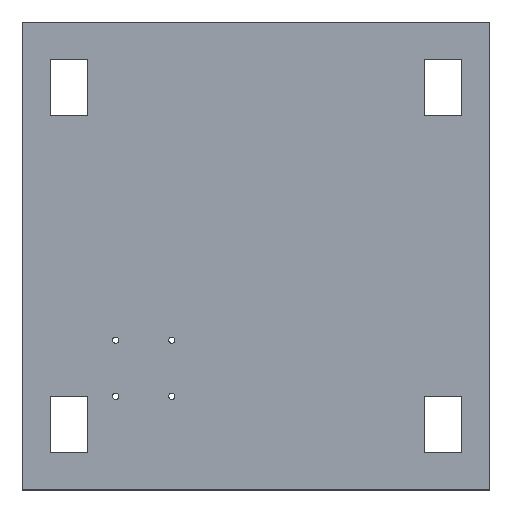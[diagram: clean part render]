
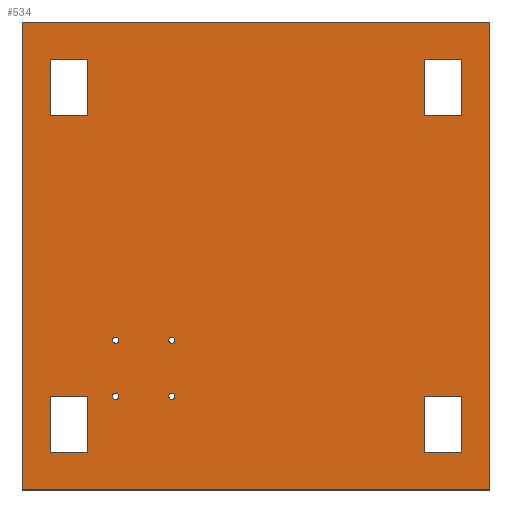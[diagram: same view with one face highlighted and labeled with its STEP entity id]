
A CAD part, top view. The second image highlights one B-rep face of the part: STEP entity #534.
In plain terms, the highlighted planar face has unit normal (0, 0, 1).
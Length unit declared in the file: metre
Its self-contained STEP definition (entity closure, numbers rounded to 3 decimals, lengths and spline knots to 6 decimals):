
#12=CIRCLE('',#565,0.0017);
#14=CIRCLE('',#568,0.0017);
#16=CIRCLE('',#571,0.0017);
#18=CIRCLE('',#574,0.0017);
#112=ORIENTED_EDGE('',*,*,#202,.F.);
#113=ORIENTED_EDGE('',*,*,#206,.T.);
#114=ORIENTED_EDGE('',*,*,#209,.T.);
#115=ORIENTED_EDGE('',*,*,#225,.F.);
#116=ORIENTED_EDGE('',*,*,#192,.F.);
#117=ORIENTED_EDGE('',*,*,#196,.T.);
#118=ORIENTED_EDGE('',*,*,#199,.T.);
#119=ORIENTED_EDGE('',*,*,#223,.F.);
#120=ORIENTED_EDGE('',*,*,#182,.F.);
#121=ORIENTED_EDGE('',*,*,#186,.T.);
#122=ORIENTED_EDGE('',*,*,#189,.T.);
#123=ORIENTED_EDGE('',*,*,#221,.F.);
#124=ORIENTED_EDGE('',*,*,#172,.F.);
#125=ORIENTED_EDGE('',*,*,#176,.T.);
#126=ORIENTED_EDGE('',*,*,#179,.T.);
#127=ORIENTED_EDGE('',*,*,#219,.F.);
#128=ORIENTED_EDGE('',*,*,#216,.F.);
#129=ORIENTED_EDGE('',*,*,#214,.F.);
#130=ORIENTED_EDGE('',*,*,#212,.F.);
#131=ORIENTED_EDGE('',*,*,#210,.F.);
#132=ORIENTED_EDGE('',*,*,#162,.T.);
#133=ORIENTED_EDGE('',*,*,#166,.T.);
#134=ORIENTED_EDGE('',*,*,#169,.F.);
#135=ORIENTED_EDGE('',*,*,#227,.F.);
#162=EDGE_CURVE('',#231,#230,#278,.T.);
#166=EDGE_CURVE('',#230,#233,#282,.T.);
#169=EDGE_CURVE('',#235,#233,#285,.T.);
#172=EDGE_CURVE('',#238,#239,#288,.T.);
#176=EDGE_CURVE('',#238,#241,#292,.T.);
#179=EDGE_CURVE('',#241,#243,#295,.T.);
#182=EDGE_CURVE('',#246,#247,#298,.T.);
#186=EDGE_CURVE('',#246,#249,#302,.T.);
#189=EDGE_CURVE('',#249,#251,#305,.T.);
#192=EDGE_CURVE('',#254,#255,#308,.T.);
#196=EDGE_CURVE('',#254,#257,#312,.T.);
#199=EDGE_CURVE('',#257,#259,#315,.T.);
#202=EDGE_CURVE('',#262,#263,#318,.T.);
#206=EDGE_CURVE('',#262,#265,#322,.T.);
#209=EDGE_CURVE('',#265,#267,#325,.T.);
#210=EDGE_CURVE('',#268,#268,#12,.T.);
#212=EDGE_CURVE('',#270,#270,#14,.T.);
#214=EDGE_CURVE('',#272,#272,#16,.T.);
#216=EDGE_CURVE('',#274,#274,#18,.T.);
#219=EDGE_CURVE('',#239,#243,#327,.T.);
#221=EDGE_CURVE('',#247,#251,#329,.T.);
#223=EDGE_CURVE('',#255,#259,#331,.T.);
#225=EDGE_CURVE('',#263,#267,#333,.T.);
#227=EDGE_CURVE('',#231,#235,#335,.T.);
#230=VERTEX_POINT('',#719);
#231=VERTEX_POINT('',#721);
#233=VERTEX_POINT('',#727);
#235=VERTEX_POINT('',#733);
#238=VERTEX_POINT('',#740);
#239=VERTEX_POINT('',#742);
#241=VERTEX_POINT('',#748);
#243=VERTEX_POINT('',#754);
#246=VERTEX_POINT('',#761);
#247=VERTEX_POINT('',#763);
#249=VERTEX_POINT('',#769);
#251=VERTEX_POINT('',#775);
#254=VERTEX_POINT('',#782);
#255=VERTEX_POINT('',#784);
#257=VERTEX_POINT('',#790);
#259=VERTEX_POINT('',#796);
#262=VERTEX_POINT('',#803);
#263=VERTEX_POINT('',#805);
#265=VERTEX_POINT('',#811);
#267=VERTEX_POINT('',#817);
#268=VERTEX_POINT('',#821);
#270=VERTEX_POINT('',#826);
#272=VERTEX_POINT('',#831);
#274=VERTEX_POINT('',#836);
#278=LINE('',#720,#338);
#282=LINE('',#728,#342);
#285=LINE('',#734,#345);
#288=LINE('',#741,#348);
#292=LINE('',#749,#352);
#295=LINE('',#755,#355);
#298=LINE('',#762,#358);
#302=LINE('',#770,#362);
#305=LINE('',#776,#365);
#308=LINE('',#783,#368);
#312=LINE('',#791,#372);
#315=LINE('',#797,#375);
#318=LINE('',#804,#378);
#322=LINE('',#812,#382);
#325=LINE('',#818,#385);
#327=LINE('',#841,#387);
#329=LINE('',#844,#389);
#331=LINE('',#847,#391);
#333=LINE('',#850,#393);
#335=LINE('',#853,#395);
#338=VECTOR('',#589,1.);
#342=VECTOR('',#595,1.);
#345=VECTOR('',#600,1.);
#348=VECTOR('',#605,1.);
#352=VECTOR('',#611,1.);
#355=VECTOR('',#616,1.);
#358=VECTOR('',#621,1.);
#362=VECTOR('',#627,1.);
#365=VECTOR('',#632,1.);
#368=VECTOR('',#637,1.);
#372=VECTOR('',#643,1.);
#375=VECTOR('',#648,1.);
#378=VECTOR('',#653,1.);
#382=VECTOR('',#659,1.);
#385=VECTOR('',#664,1.);
#387=VECTOR('',#692,1.);
#389=VECTOR('',#696,1.);
#391=VECTOR('',#700,1.);
#393=VECTOR('',#704,1.);
#395=VECTOR('',#708,1.);
#424=EDGE_LOOP('',(#112,#113,#114,#115));
#425=EDGE_LOOP('',(#116,#117,#118,#119));
#426=EDGE_LOOP('',(#120,#121,#122,#123));
#427=EDGE_LOOP('',(#124,#125,#126,#127));
#428=EDGE_LOOP('',(#128));
#429=EDGE_LOOP('',(#129));
#430=EDGE_LOOP('',(#130));
#431=EDGE_LOOP('',(#131));
#432=EDGE_LOOP('',(#132,#133,#134,#135));
#470=FACE_BOUND('',#424,.T.);
#471=FACE_BOUND('',#425,.T.);
#472=FACE_BOUND('',#426,.T.);
#473=FACE_BOUND('',#427,.T.);
#474=FACE_BOUND('',#428,.T.);
#475=FACE_BOUND('',#429,.T.);
#476=FACE_BOUND('',#430,.T.);
#477=FACE_BOUND('',#431,.T.);
#478=FACE_BOUND('',#432,.T.);
#508=PLANE('',#581);
#534=ADVANCED_FACE('',(#470,#471,#472,#473,#474,#475,#476,#477,#478),#508,
 .T.);
#565=AXIS2_PLACEMENT_3D('',#820,#667,#668);
#568=AXIS2_PLACEMENT_3D('',#825,#673,#674);
#571=AXIS2_PLACEMENT_3D('',#830,#679,#680);
#574=AXIS2_PLACEMENT_3D('',#835,#685,#686);
#581=AXIS2_PLACEMENT_3D('',#854,#709,#710);
#589=DIRECTION('',(0.,1.,0.));
#595=DIRECTION('',(-1.,0.,0.));
#600=DIRECTION('',(0.,1.,0.));
#605=DIRECTION('',(-1.,0.,0.));
#611=DIRECTION('',(0.,-1.,0.));
#616=DIRECTION('',(-1.,0.,0.));
#621=DIRECTION('',(-1.,0.,0.));
#627=DIRECTION('',(0.,-1.,0.));
#632=DIRECTION('',(-1.,0.,0.));
#637=DIRECTION('',(-1.,0.,0.));
#643=DIRECTION('',(0.,-1.,0.));
#648=DIRECTION('',(-1.,0.,0.));
#653=DIRECTION('',(1.,0.,0.));
#659=DIRECTION('',(0.,1.,0.));
#664=DIRECTION('',(1.,0.,0.));
#667=DIRECTION('',(0.,0.,1.));
#668=DIRECTION('',(1.,0.,0.));
#673=DIRECTION('',(0.,0.,1.));
#674=DIRECTION('',(1.,0.,0.));
#679=DIRECTION('',(0.,0.,1.));
#680=DIRECTION('',(1.,0.,0.));
#685=DIRECTION('',(0.,0.,1.));
#686=DIRECTION('',(1.,0.,0.));
#692=DIRECTION('',(0.,-1.,0.));
#696=DIRECTION('',(0.,-1.,0.));
#700=DIRECTION('',(0.,-1.,0.));
#704=DIRECTION('',(0.,1.,0.));
#708=DIRECTION('',(-1.,0.,0.));
#709=DIRECTION('',(0.,0.,1.));
#710=DIRECTION('',(1.,0.,0.));
#719=CARTESIAN_POINT('',(0.040783,0.182824,-0.384));
#720=CARTESIAN_POINT('',(0.040783,0.087467,-0.384));
#721=CARTESIAN_POINT('',(0.040783,-0.067176,-0.384));
#727=CARTESIAN_POINT('',(-0.209217,0.182824,-0.384));
#728=CARTESIAN_POINT('',(0.035783,0.182824,-0.384));
#733=CARTESIAN_POINT('',(-0.209217,-0.067176,-0.384));
#734=CARTESIAN_POINT('',(-0.209217,0.057824,-0.384));
#740=CARTESIAN_POINT('',(-0.174217,0.162824,-0.384));
#741=CARTESIAN_POINT('',(-0.184217,0.162824,-0.384));
#742=CARTESIAN_POINT('',(-0.194217,0.162824,-0.384));
#748=CARTESIAN_POINT('',(-0.174217,0.132824,-0.384));
#749=CARTESIAN_POINT('',(-0.174217,0.147824,-0.384));
#754=CARTESIAN_POINT('',(-0.194217,0.132824,-0.384));
#755=CARTESIAN_POINT('',(-0.184217,0.132824,-0.384));
#761=CARTESIAN_POINT('',(0.025783,0.162824,-0.384));
#762=CARTESIAN_POINT('',(0.015783,0.162824,-0.384));
#763=CARTESIAN_POINT('',(0.005783,0.162824,-0.384));
#769=CARTESIAN_POINT('',(0.025783,0.132824,-0.384));
#770=CARTESIAN_POINT('',(0.025783,0.147824,-0.384));
#775=CARTESIAN_POINT('',(0.005783,0.132824,-0.384));
#776=CARTESIAN_POINT('',(0.015783,0.132824,-0.384));
#782=CARTESIAN_POINT('',(0.025783,-0.017176,-0.384));
#783=CARTESIAN_POINT('',(0.015783,-0.017176,-0.384));
#784=CARTESIAN_POINT('',(0.005783,-0.017176,-0.384));
#790=CARTESIAN_POINT('',(0.025783,-0.047176,-0.384));
#791=CARTESIAN_POINT('',(0.025783,-0.032176,-0.384));
#796=CARTESIAN_POINT('',(0.005783,-0.047176,-0.384));
#797=CARTESIAN_POINT('',(0.015783,-0.047176,-0.384));
#803=CARTESIAN_POINT('',(-0.194217,-0.047176,-0.384));
#804=CARTESIAN_POINT('',(-0.184217,-0.047176,-0.384));
#805=CARTESIAN_POINT('',(-0.174217,-0.047176,-0.384));
#811=CARTESIAN_POINT('',(-0.194217,-0.017176,-0.384));
#812=CARTESIAN_POINT('',(-0.194217,-0.032176,-0.384));
#817=CARTESIAN_POINT('',(-0.174217,-0.017176,-0.384));
#818=CARTESIAN_POINT('',(-0.184217,-0.017176,-0.384));
#820=CARTESIAN_POINT('',(-0.159217,-0.017176,-0.384));
#821=CARTESIAN_POINT('',(-0.157517,-0.017176,-0.384));
#825=CARTESIAN_POINT('',(-0.159217,0.012824,-0.384));
#826=CARTESIAN_POINT('',(-0.157517,0.012824,-0.384));
#830=CARTESIAN_POINT('',(-0.129217,-0.017176,-0.384));
#831=CARTESIAN_POINT('',(-0.127517,-0.017176,-0.384));
#835=CARTESIAN_POINT('',(-0.129217,0.012824,-0.384));
#836=CARTESIAN_POINT('',(-0.127517,0.012824,-0.384));
#841=CARTESIAN_POINT('',(-0.194217,0.147824,-0.384));
#844=CARTESIAN_POINT('',(0.005783,0.147824,-0.384));
#847=CARTESIAN_POINT('',(0.005783,-0.032176,-0.384));
#850=CARTESIAN_POINT('',(-0.174217,-0.032176,-0.384));
#853=CARTESIAN_POINT('',(-0.196717,-0.067176,-0.384));
#854=CARTESIAN_POINT('',(-0.084217,0.057824,-0.384));
